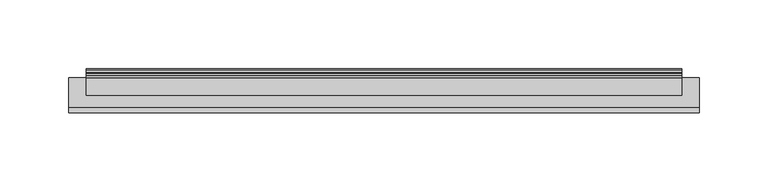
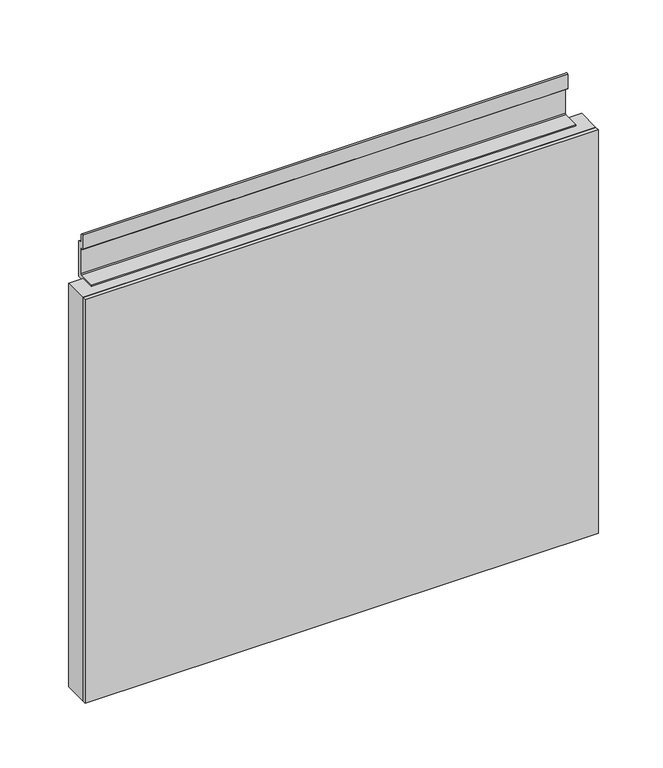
"""IFC4 building model written with IfcOpenShell, lengths in millimetres: furniture geometry, Geiger_GeigerOneCasegoods_WallTileAcceptsTileAboveBackPainte : 18Wx 1.25Dx 15H."""

from ifc_helpers import new_model, si_unit, point, frame, frame_2d, origin, origin_with_axes, place, context, project, spatial, polyline, circle_curve, trimmed, segment, composite_curve, outline, extrude, faceted_brep, source, transform, mapped, element, save


def furniture_463faf28(model_context):
    return source(origin(), model_context, "Body", "SolidModel", [
        faceted_brep([(457.2, 0.0, 380.0), (457.2, -21.4884, 380.0), (457.2, -21.4884, 0.0), (457.2, 0.0, 0.0), (449.199, -4.191, 371.999), (449.199, 0.0, 371.999), (449.199, 0.0, 8.001), (449.199, -4.191, 8.001), (443.3824, -10.0076, 366.1824), (443.3824, -10.0076, 13.8176), (422.3766, -7.0104, 345.1766), (425.3738, -10.0076, 348.1738), (425.3738, -10.0076, 31.8262), (422.3766, -7.0104, 34.8234), (395.1986, -17.5006, 317.9986), (395.1986, -7.0104, 317.9986), (395.1986, -7.0104, 62.0014), (395.1986, -17.5006, 62.0014), (387.1976, -19.5072, 309.9976), (387.1976, -17.5006, 309.9976), (387.1976, -17.5006, 70.0024), (387.1976, -19.5072, 70.0024), (413.7914, -21.4884, 336.5914), (413.7914, -19.5072, 336.5914), (413.7914, -19.5072, 43.4086), (413.7914, -21.4884, 43.4086), (0.0, -21.4884, 0.0), (0.0, 0.0, 0.0), (8.001, 0.0, 8.001), (8.001, -4.191, 8.001), (13.8176, -10.0076, 13.8176), (31.8262, -10.0076, 31.8262), (34.8234, -7.0104, 34.8234), (62.0014, -7.0104, 62.0014), (62.0014, -17.5006, 62.0014), (70.0024, -17.5006, 70.0024), (70.0024, -19.5072, 70.0024), (43.4086, -19.5072, 43.4086), (43.4086, -21.4884, 43.4086), (0.0, -21.4884, 380.0), (0.0, 0.0, 380.0), (8.001, 0.0, 371.999), (8.001, -4.191, 371.999), (13.8176, -10.0076, 366.1824), (31.8262, -10.0076, 348.1738), (34.8234, -7.0104, 345.1766), (62.0014, -7.0104, 317.9986), (62.0014, -17.5006, 317.9986), (70.0024, -17.5006, 309.9976), (70.0024, -19.5072, 309.9976), (43.4086, -19.5072, 336.5914), (43.4086, -21.4884, 336.5914)], [[[0, 1, 2, 3]], [[4, 5, 6, 7]], [[8, 4, 7, 9]], [[10, 11, 12, 13]], [[14, 15, 16, 17]], [[18, 19, 20, 21]], [[22, 23, 24, 25]], [[3, 2, 26, 27]], [[7, 6, 28, 29]], [[9, 7, 29, 30]], [[13, 12, 31, 32]], [[17, 16, 33, 34]], [[21, 20, 35, 36]], [[25, 24, 37, 38]], [[27, 26, 39, 40]], [[29, 28, 41, 42]], [[30, 29, 42, 43]], [[32, 31, 44, 45]], [[34, 33, 46, 47]], [[36, 35, 48, 49]], [[38, 37, 50, 51]], [[40, 39, 1, 0]], [[3, 27, 40, 0], [5, 41, 28, 6]], [[42, 41, 5, 4]], [[43, 42, 4, 8]], [[9, 30, 43, 8], [11, 44, 31, 12]], [[45, 44, 11, 10]], [[13, 32, 45, 10], [15, 46, 33, 16]], [[47, 46, 15, 14]], [[17, 34, 47, 14], [19, 48, 35, 20]], [[49, 48, 19, 18]], [[23, 50, 37, 24], [21, 36, 49, 18]], [[51, 50, 23, 22]], [[1, 39, 26, 2], [25, 38, 51, 22]]]),
        extrude(outline(polyline([(457.2, -21.4884), (457.2, -25.5), (0.0, -25.5), (0.0, -21.4884), (457.2, -21.4884)])), origin_with_axes(), (0.0, 0.0, 1.0), 380.0),
        extrude(outline(composite_curve([segment(polyline([(2.8956, 46.3366), (3.7084, 45.5238), (5.588, 45.5238), (6.4008, 44.7364), (6.4008, 31.3319374)]), True, "CONTINUOUS"), segment(trimmed(circle_curve(frame_2d((5.5984114, 31.3319374)), 0.8023886), [point((6.4008, 31.3319374))], [point((5.031037, 30.764563))], False, "CARTESIAN"), True, "CONTINUOUS"), segment(polyline([(5.031037, 30.764563), (3.5052, 32.2904), (3.5052, 39.2246), (2.6924, 40.012), (0.7874, 40.012), (0.0, 40.8248), (0.0, 72.524), (1.2954, 72.524), (2.8956, 70.9238), (2.8956, 46.3366)]), True, "CONTINUOUS")], self_intersect=False)), frame((50.0, 0.0, 0.0), z_axis=(1.0, 0.0, 0.0), x_axis=(0.0, 1.0, 0.0)), (0.0, 0.0, 1.0), 76.0),
        extrude(outline(composite_curve([segment(polyline([(3.5052, 32.2904), (3.5052, 39.2246), (2.6924, 40.012), (0.7874, 40.012), (0.0, 40.8248), (0.0, 72.524), (1.2954, 72.524), (2.8956, 70.9238), (2.8956, 46.3366), (3.7084, 45.5238), (5.588, 45.5238), (6.4008, 44.7364), (6.4008, 31.3319374)]), True, "CONTINUOUS"), segment(trimmed(circle_curve(frame_2d((5.5984114, 31.3319374)), 0.8023886), [point((6.4008, 31.3319374))], [point((5.031037, 30.764563))], False, "CARTESIAN"), True, "CONTINUOUS"), segment(polyline([(5.031037, 30.764563), (3.5052, 32.2904)]), True, "CONTINUOUS")], self_intersect=False)), frame((331.2, 0.0, 0.0), z_axis=(1.0, 0.0, 0.0), x_axis=(0.0, 1.0, 0.0)), (0.0, 0.0, 1.0), 76.0),
        extrude(outline(composite_curve([segment(polyline([(2.8956, 420.2336), (2.8956, 413.2994), (3.683, 412.512), (5.588, 412.512), (6.4008, 411.6992), (6.4008, 378.3998), (3.7084, 378.3998), (2.8956, 377.6124), (2.8956, 363.8964), (3.7084, 363.109), (6.4008, 363.109), (6.4008, 360.188), (0.7874, 360.188), (0.0, 361.0008), (0.0, 380.0), (-12.5984, 380.0), (-12.5984, 381.6002), (2.6924, 381.6002), (3.5052, 382.3876), (3.5052, 406.2128), (2.6924, 407.0002), (0.7874, 407.0002), (0.0, 407.813), (0.0, 421.1980474)]), True, "CONTINUOUS"), segment(trimmed(circle_curve(frame_2d((0.7999096, 421.1980474)), 0.7999096), [point((0.0, 421.1980474))], [point((1.3655311, 421.7636689))], False, "CARTESIAN"), True, "CONTINUOUS"), segment(polyline([(1.3655311, 421.7636689), (2.8956, 420.2336)]), True, "CONTINUOUS")], self_intersect=False)), frame((12.5, 0.0, 0.0), z_axis=(1.0, 0.0, 0.0), x_axis=(0.0, 1.0, 0.0)), (0.0, 0.0, 1.0), 432.2),
    ])


if __name__ == "__main__":
    model = new_model("IFC4")
    model_context = context("Model", 3, world=origin())
    ifc_project = project(units=[si_unit("LENGTHUNIT", "METRE", prefix="MILLI")], contexts=[model_context])
    site = spatial("IfcSite", under=ifc_project)
    building = spatial("IfcBuilding", under=site)
    placement = place(None, origin())
    furniture_shape = furniture_463faf28(model_context)
    element("IfcFurniture", 1, ObjectType="Geiger_GeigerOneCasegoods_WallTileAcceptsTileAboveBackPainte : 18Wx 1.25Dx 15H", at=placement, inside=building, context=model_context, shape_type="MappedRepresentation", body=[
        mapped(furniture_shape, transform((0.0, 0.0, 0.0), x_axis=(1.0, 0.0, 0.0), y_axis=(0.0, 1.0, 0.0), z_axis=(0.0, 0.0, 1.0))),
    ])
    save(model, "model.ifc")
